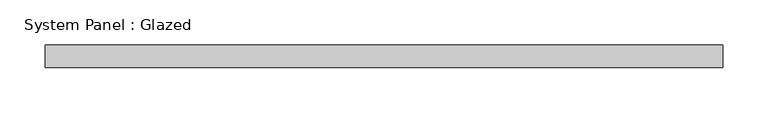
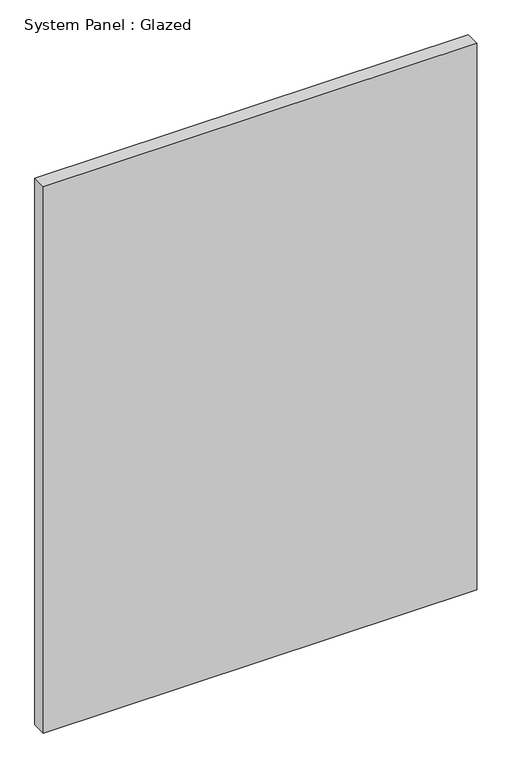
"""IFC4 building model written with IfcOpenShell, lengths in millimetres: plate geometry, System Panel : Glazed."""

from ifc_helpers import new_model, si_unit, origin, origin_with_axes, place, context, project, spatial, polyline, outline, extrude, source, transform, mapped, element, save


def system_panel_glazed_c6e9b6dd(model_context):
    return source(origin(), model_context, "Body", "SweptSolid", [
        extrude(outline(polyline([(375.1304828, 24.5), (-375.1304828, 24.5), (-375.1304828, 49.5), (375.1304828, 49.5), (375.1304828, 24.5)])), origin_with_axes(), (0.0, 0.0, 1.0), 1000.0),
    ])


if __name__ == "__main__":
    model = new_model("IFC4")
    model_context = context("Model", 3, world=origin())
    ifc_project = project(units=[si_unit("LENGTHUNIT", "METRE", prefix="MILLI")], contexts=[model_context])
    site = spatial("IfcSite", under=ifc_project)
    building = spatial("IfcBuilding", under=site)
    placement = place(None, origin())
    system_panel_glazed_shape = system_panel_glazed_c6e9b6dd(model_context)
    element("IfcPlate", 1, ObjectType="System Panel : Glazed", at=placement, inside=building, context=model_context, shape_type="MappedRepresentation", body=[
        mapped(system_panel_glazed_shape, transform((0.0, 0.0, 0.0), x_axis=(1.0, 0.0, 0.0), y_axis=(0.0, 1.0, 0.0), z_axis=(0.0, 0.0, 1.0))),
    ])
    save(model, "model.ifc")
